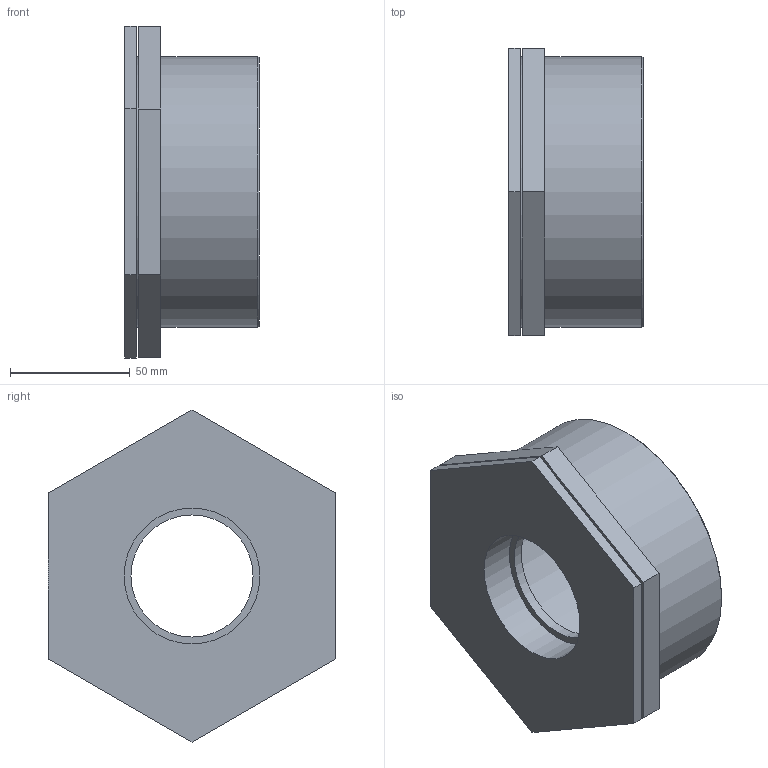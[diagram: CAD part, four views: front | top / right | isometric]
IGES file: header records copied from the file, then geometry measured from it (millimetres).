
Global section: file name: 050207040020_0502070400200A.ipt; native system: Autodesk Inventor 2015; preprocessor: unknown; author: KIM; date: 20170618.093151; units: millimetre
Bounding box: 56 x 120 x 138.56 mm (x, y, z)
Volume: 212756.1 mm3; surface area: 65112.9 mm2
Topology: 1 solids, 1 shells, 28 faces, 66 edges, 46 vertices
Faces by surface type: plane 20, revolution 4, cylinder 3, cone 1
Full cylindrical faces by diameter (mm): 67.987 x1, 113.03 x2
